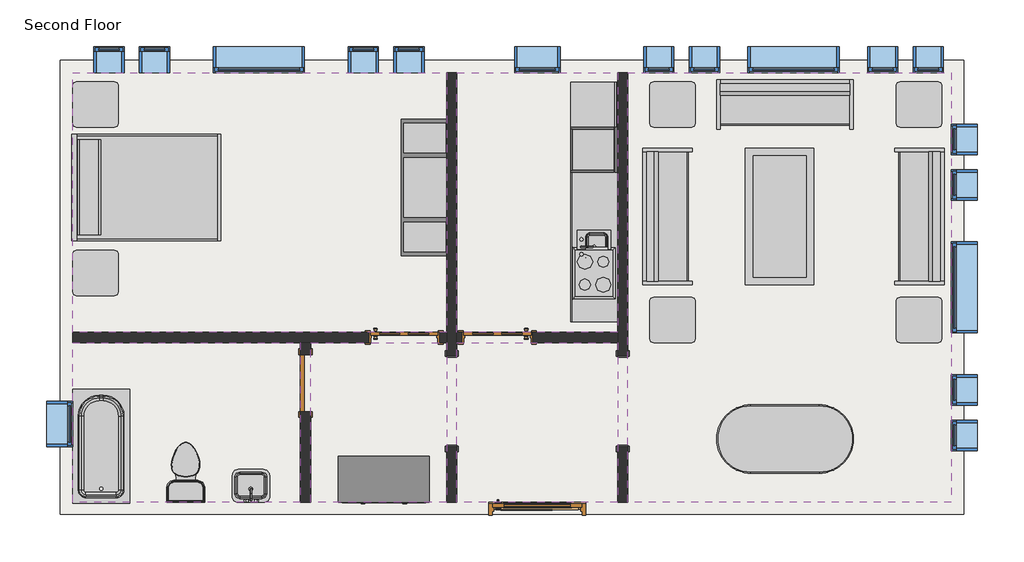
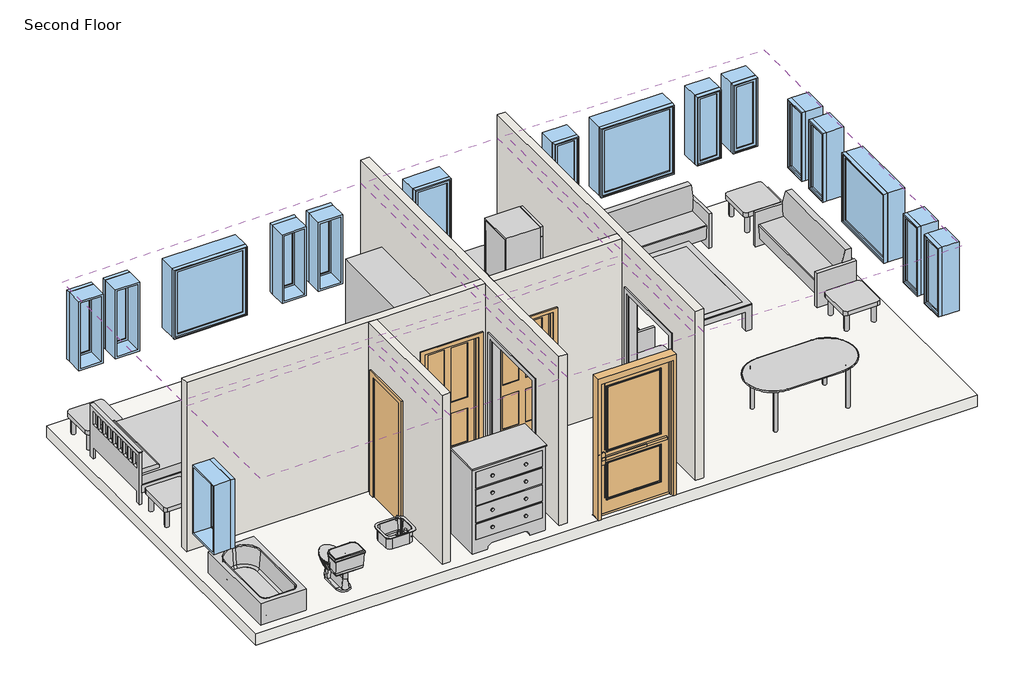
# One storey, incomplete: 17 windows, 15 furniture elements, 6 coverings, 6 proxies, 4 doors, 4 flow terminals, 4 walls, 1 slab.
"""IFC4 building model written with IfcOpenShell, lengths in millimetres."""

from ifc_helpers import new_model, si_unit, frame, origin, place, context, project, spatial, polyline, outline, extrude, faceted_brep, transform, mapped, element, save
from components import m_cook_top_4_unit2_0615_x_500mm_249f3515, m_dishwasher_610_x_610_x_875mm_54ecfc4c, m_kitchenette_medium_m_kitchenette_medium_3ff942c7, m_passage_opening_cased_1220_x_2134_mm_87a8d9c2, m_refrigerator_600_x_660mm_a466bf94, m_door_exterior_single_two_lite_1200_x_2400mm_30e12bfc, m_door_interior_single_4_panel_wood_900_x_2100mm_1f4ed184, m_door_interior_single_4_panel_wood_900_x_2100mm_40914eee, m_single_flush_0762_x_2134mm_0d89e411, m_sink_kitchen_island_450_x_450mm_f969cf2d, m_sink_vanity_square_500_x_440mm_1e229b74, m_toilet_domestic_3d_m_toilet_domestic_3d_5cb52bd4, m_toilet_domestic_3d_m_toilet_domestic_3d_183bbd19, m_tub_rectangular_3d_m_tub_rectangular_3d_3a981ad5, m_bed_shaker_1422_x_1981mm_double_096e7f55, m_counter_top_w_sink_hole_600mm_depth_8ccae52a, m_dresser_1220_x_1525_x_0610mm_18e1f140, m_entertainment_center_1830_x_1830_x_0610mm_f77a9b93, m_sofa_1830mm_f9e8a66b, m_table_coffee_0915_x_1830_x_0457mm_134cd960, m_table_dining_oval_0915_x_1830mm_a7cfbe21, m_table_end_0610_x_0160mm_cb6ea12e, m_fixed_0406_x_1220mm_57fee329, m_fixed_0406_x_1220mm_85c28f40, m_fixed_0610_x_1220mm_2c28ef1d, m_fixed_1220_x_1220_e08ff7af

model = new_model("IFC4")

# Units and contexts
model_context = context("Model", 3, world=origin())
ifc_project = project(units=[si_unit("LENGTHUNIT", "METRE", prefix="MILLI")], contexts=[model_context])

# Site, building, storey
site = spatial("IfcSite", under=ifc_project)
building = spatial("IfcBuilding", under=site)
storey = spatial("IfcBuildingStorey", under=building, Name="Second Floor", Elevation=3000.0)

# Proxies
placement = place(None, origin())
m_cook_top_4_unit2_0615_x_500mm_shape = m_cook_top_4_unit2_0615_x_500mm_249f3515(model_context)
element("IfcBuildingElementProxy", 1, Name="M_Cook Top-4 Unit2 : 0615 x 500mm", ObjectType="M_Cook Top-4 Unit2 : 0615 x 500mm", at=placement, inside=storey, context=model_context, shape_type="MappedRepresentation", body=[
    mapped(m_cook_top_4_unit2_0615_x_500mm_shape, transform((-11224.1822145, 11168.140104, 3031.0), x_axis=(0.0, 1.0, 0.0), y_axis=(-1.0, 0.0, 0.0), z_axis=(0.0, 0.0, 1.0))),
])
m_dishwasher_610_x_610_x_875mm_shape = m_dishwasher_610_x_610_x_875mm_54ecfc4c(model_context)
element("IfcBuildingElementProxy", 2, Name="M_Dishwasher : 610 x 610 x 875mm", ObjectType="M_Dishwasher : 610 x 610 x 875mm", at=placement, inside=storey, context=model_context, shape_type="MappedRepresentation", body=[
    mapped(m_dishwasher_610_x_610_x_875mm_shape, transform((-10967.5326497, 13033.8726355, 3000.0), x_axis=(0.0, 1.0, 0.0), y_axis=(-1.0, 0.0, 0.0), z_axis=(0.0, 0.0, 1.0))),
])
m_kitchenette_medium_m_kitchenette_medium_shape = m_kitchenette_medium_m_kitchenette_medium_3ff942c7(model_context)
element("IfcBuildingElementProxy", 3, Name="M_Kitchenette - Medium : M_Kitchenette - Medium", ObjectType="M_Kitchenette - Medium : M_Kitchenette - Medium", at=placement, inside=storey, context=model_context, shape_type="MappedRepresentation", body=[
    mapped(m_kitchenette_medium_m_kitchenette_medium_shape, transform((-11539.1822145, 11797.152399, 3000.0), x_axis=(0.0, 1.0, 0.0), y_axis=(-1.0, 0.0, 0.0), z_axis=(0.0, 0.0, 1.0))),
])
m_passage_opening_cased_1220_x_2134_mm_shape = m_passage_opening_cased_1220_x_2134_mm_87a8d9c2(model_context)
element("IfcBuildingElementProxy", 4, Name="M_Passage Opening-Cased : 1220 x 2134 mm", ObjectType="M_Passage Opening-Cased : 1220 x 2134 mm", at=placement, inside=storey, context=model_context, shape_type="MappedRepresentation", body=[
    mapped(m_passage_opening_cased_1220_x_2134_mm_shape, transform((-10841.0930086, 9462.255705, 3000.0), x_axis=(0.0, 1.0, 0.0), y_axis=(-1.0, 0.0, 0.0), z_axis=(0.0, 0.0, 1.0))),
])
element("IfcBuildingElementProxy", 5, Name="M_Passage Opening-Cased : 1220 x 2134 mm", ObjectType="M_Passage Opening-Cased : 1220 x 2134 mm", at=placement, inside=storey, context=model_context, shape_type="MappedRepresentation", body=[
    mapped(m_passage_opening_cased_1220_x_2134_mm_shape, transform((-13127.0930086, 9445.8783915, 3000.0), x_axis=(0.0, -1.0, 0.0), y_axis=(1.0, 0.0, 0.0), z_axis=(0.0, 0.0, 1.0))),
])
m_refrigerator_600_x_660mm_shape = m_refrigerator_600_x_660mm_a466bf94(model_context)
element("IfcBuildingElementProxy", 6, Name="M_Refrigerator : 600 x 660mm", ObjectType="M_Refrigerator : 600 x 660mm", at=placement, inside=storey, context=model_context, shape_type="MappedRepresentation", body=[
    mapped(m_refrigerator_600_x_660mm_shape, transform((-11242.9671243, 12874.1912466, 3000.0), x_axis=(0.0, 1.0, 0.0), y_axis=(-1.0, 0.0, 0.0), z_axis=(0.0, 0.0, 1.0))),
])

# Coverings
element("IfcCovering", 7, ObjectType="Plain", at=placement, inside=storey, context=model_context, shape_type="SweptSolid", body=[
    extrude(outline(polyline([(-18201.8430086, 13851.0670483), (-13194.8430086, 13851.0670483), (-13194.8430086, 10374.5670483), (-18201.8430086, 10374.5670483), (-18201.8430086, 13851.0670483)])), frame((0.0, 0.0, 5590.0), z_axis=(0.0, 0.0, 1.0), x_axis=(1.0, 0.0, 0.0)), (0.0, 0.0, 1.0), 57.0),
])
element("IfcCovering", 8, ObjectType="Plain", at=placement, inside=storey, context=model_context, shape_type="SweptSolid", body=[
    extrude(outline(polyline([(-13059.3430086, 10374.5670483), (-13059.3430086, 13851.0670483), (-10908.8430086, 13851.0670483), (-10908.8430086, 10374.5670483), (-13059.3430086, 10374.5670483)])), frame((0.0, 0.0, 5590.0), z_axis=(0.0, 0.0, 1.0), x_axis=(1.0, 0.0, 0.0)), (0.0, 0.0, 1.0), 57.0),
])
element("IfcCovering", 9, ObjectType="Plain", at=placement, inside=storey, context=model_context, shape_type="SweptSolid", body=[
    extrude(outline(polyline([(-10773.3430086, 8105.0670483), (-10773.3430086, 13851.0670483), (-6444.0930086, 13851.0670483), (-6444.0930086, 8105.0670483), (-10773.3430086, 8105.0670483)])), frame((0.0, 0.0, 5590.0), z_axis=(0.0, 0.0, 1.0), x_axis=(1.0, 0.0, 0.0)), (0.0, 0.0, 1.0), 57.0),
])
element("IfcCovering", 10, ObjectType="Plain", at=placement, inside=storey, context=model_context, shape_type="SweptSolid", body=[
    extrude(outline(polyline([(-10908.8430086, 8105.0670483), (-13059.3430086, 8105.0670483), (-13059.3430086, 10239.0670483), (-10908.8430086, 10239.0670483), (-10908.8430086, 8105.0670483)])), frame((0.0, 0.0, 5590.0), z_axis=(0.0, 0.0, 1.0), x_axis=(1.0, 0.0, 0.0)), (0.0, 0.0, 1.0), 57.0),
])
element("IfcCovering", 11, ObjectType="Plain", at=placement, inside=storey, context=model_context, shape_type="SweptSolid", body=[
    extrude(outline(polyline([(-13194.8430086, 8105.0670483), (-15018.3430086, 8105.0670483), (-15018.3430086, 10239.0670483), (-13194.8430086, 10239.0670483), (-13194.8430086, 8105.0670483)])), frame((0.0, 0.0, 5590.0), z_axis=(0.0, 0.0, 1.0), x_axis=(1.0, 0.0, 0.0)), (0.0, 0.0, 1.0), 57.0),
])
element("IfcCovering", 12, ObjectType="Plain", at=placement, inside=storey, context=model_context, shape_type="SweptSolid", body=[
    extrude(outline(polyline([(-15153.8430086, 10239.0670483), (-15153.8430086, 8105.0670483), (-18201.8430086, 8105.0670483), (-18201.8430086, 10239.0670483), (-15153.8430086, 10239.0670483)])), frame((0.0, 0.0, 5590.0), z_axis=(0.0, 0.0, 1.0), x_axis=(1.0, 0.0, 0.0)), (0.0, 0.0, 1.0), 57.0),
])

# Doors
m_door_exterior_single_two_lite_1200_x_2400mm_shape = m_door_exterior_single_two_lite_1200_x_2400mm_30e12bfc(model_context)
element("IfcDoor", 13, ObjectType="M_Door-Exterior-Single-Two_Lite : 1200 x 2400mm", at=placement, inside=storey, context=model_context, shape_type="MappedRepresentation", body=[
    mapped(m_door_exterior_single_two_lite_1200_x_2400mm_shape, transform((-11984.0930086, 7923.7170483, 3000.0), x_axis=(1.0, 0.0, 0.0), y_axis=(0.0, 1.0, 0.0), z_axis=(0.0, 0.0, 1.0))),
])
m_door_interior_single_4_panel_wood_900_x_2100mm_shape = m_door_interior_single_4_panel_wood_900_x_2100mm_1f4ed184(model_context)
element("IfcDoor", 14, ObjectType="M_Door-Interior-Single-4_Panel-Wood : 900 x 2100mm", at=placement, inside=storey, context=model_context, shape_type="MappedRepresentation", body=[
    mapped(m_door_interior_single_4_panel_wood_900_x_2100mm_shape, transform((-12518.0930086, 10309.9920483, 3000.0), x_axis=(-1.0, 0.0, 0.0), y_axis=(0.0, -1.0, 0.0), z_axis=(0.0, 0.0, 1.0))),
])
m_door_interior_single_4_panel_wood_900_x_2100mm_2_shape = m_door_interior_single_4_panel_wood_900_x_2100mm_40914eee(model_context)
element("IfcDoor", 15, ObjectType="M_Door-Interior-Single-4_Panel-Wood : 900 x 2100mm", at=placement, inside=storey, context=model_context, shape_type="MappedRepresentation", body=[
    mapped(m_door_interior_single_4_panel_wood_900_x_2100mm_2_shape, transform((-13766.0930086, 10309.9920483, 3000.0), x_axis=(1.0, 0.0, 0.0), y_axis=(0.0, 1.0, 0.0), z_axis=(0.0, 0.0, 1.0))),
])
m_single_flush_0762_x_2134mm_shape = m_single_flush_0762_x_2134mm_0d89e411(model_context)
element("IfcDoor", 16, ObjectType="M_Single-Flush : 0762 x 2134mm", at=placement, inside=storey, context=model_context, shape_type="MappedRepresentation", body=[
    mapped(m_single_flush_0762_x_2134mm_shape, transform((-15086.0930086, 9696.8170483, 3000.0), x_axis=(0.0, 1.0, 0.0), y_axis=(-1.0, 0.0, 0.0), z_axis=(0.0, 0.0, 1.0))),
])

# Flow terminals
m_sink_kitchen_island_450_x_450mm_shape = m_sink_kitchen_island_450_x_450mm_f969cf2d(model_context)
element("IfcFlowTerminal", 17, ObjectType="M_Sink Kitchen-Island : 450 x 450mm", at=placement, inside=storey, context=model_context, shape_type="MappedRepresentation", body=[
    mapped(m_sink_kitchen_island_450_x_450mm_shape, transform((-11223.7368134, 11504.7008634, 3031.0), x_axis=(0.0, 1.0, 0.0), y_axis=(-1.0, 0.0, 0.0), z_axis=(0.0, 0.0, 1.0))),
])
m_sink_vanity_square_500_x_440mm_shape = m_sink_vanity_square_500_x_440mm_1e229b74(model_context)
element("IfcFlowTerminal", 18, ObjectType="M_Sink Vanity-Square : 500 x 440mm", at=placement, inside=storey, context=model_context, shape_type="MappedRepresentation", body=[
    mapped(m_sink_vanity_square_500_x_440mm_shape, transform((-15802.3094072, 8285.2124494, 3000.0), x_axis=(-1.0, 0.0, 0.0), y_axis=(0.0, -1.0, 0.0), z_axis=(0.0, 0.0, 1.0))),
])
m_toilet_domestic_3d_m_toilet_domestic_3d_shape = m_toilet_domestic_3d_m_toilet_domestic_3d_5cb52bd4(model_context)
m_toilet_domestic_3d_m_toilet_domestic_3d_2_shape = m_toilet_domestic_3d_m_toilet_domestic_3d_183bbd19(model_context)
element("IfcFlowTerminal", 19, ObjectType="M_Toilet-Domestic-3D : M_Toilet-Domestic-3D", at=placement, inside=storey, context=model_context, shape_type="MappedRepresentation", body=[
    mapped(m_toilet_domestic_3d_m_toilet_domestic_3d_shape, transform((-16689.489036, 8599.7630756, 3000.0), x_axis=(-1.0, 0.0, 0.0), y_axis=(0.0, -1.0, 0.0), z_axis=(0.0, 0.0, 1.0))),
    mapped(m_toilet_domestic_3d_m_toilet_domestic_3d_2_shape, transform((-16689.489036, 8599.7630756, 3000.0), x_axis=(-1.0, 0.0, 0.0), y_axis=(0.0, -1.0, 0.0), z_axis=(0.0, 0.0, 1.0))),
])
m_tub_rectangular_3d_m_tub_rectangular_3d_shape = m_tub_rectangular_3d_m_tub_rectangular_3d_3a981ad5(model_context)
element("IfcFlowTerminal", 20, ObjectType="M_Tub-Rectangular-3D : M_Tub-Rectangular-3D", at=placement, inside=storey, context=model_context, shape_type="MappedRepresentation", body=[
    mapped(m_tub_rectangular_3d_m_tub_rectangular_3d_shape, transform((-18376.8430086, 9198.170017, 3000.0), x_axis=(0.0, 1.0, 0.0), y_axis=(-1.0, 0.0, 0.0), z_axis=(0.0, 0.0, 1.0))),
])

# Furniture
m_bed_shaker_1422_x_1981mm_double_shape = m_bed_shaker_1422_x_1981mm_double_096e7f55(model_context)
element("IfcFurniture", 21, ObjectType="M_Bed-Shaker : 1422 x 1981mm - Double", at=placement, inside=storey, context=model_context, shape_type="MappedRepresentation", body=[
    mapped(m_bed_shaker_1422_x_1981mm_double_shape, transform((-18201.8430086, 12334.7295483, 3000.0), x_axis=(0.0, 1.0, 0.0), y_axis=(-1.0, 0.0, 0.0), z_axis=(0.0, 0.0, 1.0))),
])
m_counter_top_w_sink_hole_600mm_depth_shape = m_counter_top_w_sink_hole_600mm_depth_8ccae52a(model_context)
element("IfcFurniture", 22, ObjectType="M_Counter Top w Sink Hole : 600mm Depth", at=placement, inside=storey, context=model_context, shape_type="MappedRepresentation", body=[
    mapped(m_counter_top_w_sink_hole_600mm_depth_shape, transform((-11539.1822145, 11720.852399, 3031.0), x_axis=(0.0, 1.0, 0.0), y_axis=(-1.0, 0.0, 0.0), z_axis=(0.0, 0.0, 1.0))),
])
m_dresser_1220_x_1525_x_0610mm_shape = m_dresser_1220_x_1525_x_0610mm_18e1f140(model_context)
element("IfcFurniture", 23, ObjectType="M_Dresser : 1220 x 1525 x 0610mm", at=placement, inside=storey, context=model_context, shape_type="MappedRepresentation", body=[
    mapped(m_dresser_1220_x_1525_x_0610mm_shape, transform((-13767.8997488, 8773.2300024, 3000.0), x_axis=(1.0, 0.0, 0.0), y_axis=(0.0, 1.0, 0.0), z_axis=(0.0, 0.0, 1.0))),
])
m_entertainment_center_1830_x_1830_x_0610mm_shape = m_entertainment_center_1830_x_1830_x_0610mm_f77a9b93(model_context)
element("IfcFurniture", 24, ObjectType="M_Entertainment center : 1830 x 1830 x 0610mm", at=placement, inside=storey, context=model_context, shape_type="MappedRepresentation", body=[
    mapped(m_entertainment_center_1830_x_1830_x_0610mm_shape, transform((-13906.2430086, 12315.6795483, 3000.0), x_axis=(0.0, 1.0, 0.0), y_axis=(-1.0, 0.0, 0.0), z_axis=(0.0, 0.0, 1.0))),
])
m_sofa_1830mm_shape = m_sofa_1830mm_f9e8a66b(model_context)
element("IfcFurniture", 25, ObjectType="M_Sofa : 1830mm", at=placement, inside=storey, context=model_context, shape_type="MappedRepresentation", body=[
    mapped(m_sofa_1830mm_shape, transform((-8739.4635004, 13279.9129499, 3000.0), x_axis=(1.0, 0.0, 0.0), y_axis=(0.0, 1.0, 0.0), z_axis=(0.0, 0.0, 1.0))),
])
element("IfcFurniture", 26, ObjectType="M_Sofa : 1830mm", at=placement, inside=storey, context=model_context, shape_type="MappedRepresentation", body=[
    mapped(m_sofa_1830mm_shape, transform((-7015.247107, 11996.4375401, 3000.0), x_axis=(0.0, -1.0, 0.0), y_axis=(1.0, 0.0, 0.0), z_axis=(0.0, 0.0, 1.0))),
])
element("IfcFurniture", 27, ObjectType="M_Sofa : 1830mm", at=placement, inside=storey, context=model_context, shape_type="MappedRepresentation", body=[
    mapped(m_sofa_1830mm_shape, transform((-10094.9389103, 11855.6965565, 3000.0), x_axis=(0.0, 1.0, 0.0), y_axis=(-1.0, 0.0, 0.0), z_axis=(0.0, 0.0, 1.0))),
])
m_table_coffee_0915_x_1830_x_0457mm_shape = m_table_coffee_0915_x_1830_x_0457mm_134cd960(model_context)
element("IfcFurniture", 28, ObjectType="M_Table-Coffee : 0915 x 1830 x 0457mm", at=placement, inside=storey, context=model_context, shape_type="MappedRepresentation", body=[
    mapped(m_table_coffee_0915_x_1830_x_0457mm_shape, transform((-8645.8819308, 11907.8012816, 3000.0), x_axis=(0.0, 1.0, 0.0), y_axis=(-1.0, 0.0, 0.0), z_axis=(0.0, 0.0, 1.0))),
])
m_table_dining_oval_0915_x_1830mm_shape = m_table_dining_oval_0915_x_1830mm_a7cfbe21(model_context)
element("IfcFurniture", 29, ObjectType="M_Table-Dining Oval : 0915 x 1830mm", at=placement, inside=storey, context=model_context, shape_type="MappedRepresentation", body=[
    mapped(m_table_dining_oval_0915_x_1830mm_shape, transform((-8267.2733365, 9307.4154089, 3000.0), x_axis=(1.0, 0.0, 0.0), y_axis=(0.0, 1.0, 0.0), z_axis=(0.0, 0.0, 1.0))),
])
m_table_end_0610_x_0160mm_shape = m_table_end_0610_x_0160mm_cb6ea12e(model_context)
element("IfcFurniture", 30, ObjectType="M_Table-End : 0610 x 0160mm", at=placement, inside=storey, context=model_context, shape_type="MappedRepresentation", body=[
    mapped(m_table_end_0610_x_0160mm_shape, transform((-10482.8266389, 13273.6670483, 3000.0), x_axis=(1.0, 0.0, 0.0), y_axis=(0.0, 1.0, 0.0), z_axis=(0.0, 0.0, 1.0))),
])
element("IfcFurniture", 31, ObjectType="M_Table-End : 0610 x 0160mm", at=placement, inside=storey, context=model_context, shape_type="MappedRepresentation", body=[
    mapped(m_table_end_0610_x_0160mm_shape, transform((-7182.8266389, 13273.6670483, 3000.0), x_axis=(1.0, 0.0, 0.0), y_axis=(0.0, 1.0, 0.0), z_axis=(0.0, 0.0, 1.0))),
])
element("IfcFurniture", 32, ObjectType="M_Table-End : 0610 x 0160mm", at=placement, inside=storey, context=model_context, shape_type="MappedRepresentation", body=[
    mapped(m_table_end_0610_x_0160mm_shape, transform((-7182.8266389, 10391.6670483, 3000.0), x_axis=(1.0, 0.0, 0.0), y_axis=(0.0, 1.0, 0.0), z_axis=(0.0, 0.0, 1.0))),
])
element("IfcFurniture", 33, ObjectType="M_Table-End : 0610 x 0160mm", at=placement, inside=storey, context=model_context, shape_type="MappedRepresentation", body=[
    mapped(m_table_end_0610_x_0160mm_shape, transform((-10482.8266389, 10391.6670483, 3000.0), x_axis=(1.0, 0.0, 0.0), y_axis=(0.0, 1.0, 0.0), z_axis=(0.0, 0.0, 1.0))),
])
element("IfcFurniture", 34, ObjectType="M_Table-End : 0610 x 0160mm", at=placement, inside=storey, context=model_context, shape_type="MappedRepresentation", body=[
    mapped(m_table_end_0610_x_0160mm_shape, transform((-18205.5766389, 13273.6670483, 3000.0), x_axis=(1.0, 0.0, 0.0), y_axis=(0.0, 1.0, 0.0), z_axis=(0.0, 0.0, 1.0))),
])
element("IfcFurniture", 35, ObjectType="M_Table-End : 0610 x 0160mm", at=placement, inside=storey, context=model_context, shape_type="MappedRepresentation", body=[
    mapped(m_table_end_0610_x_0160mm_shape, transform((-18205.5766389, 11018.6670483, 3000.0), x_axis=(1.0, 0.0, 0.0), y_axis=(0.0, 1.0, 0.0), z_axis=(0.0, 0.0, 1.0))),
])

# Slab
element("IfcSlab", 36, ObjectType="160mm Concrete With 50mm Metal Deck", at=placement, inside=storey, context=model_context, shape_type="SweptSolid", body=[
    extrude(outline(polyline([(-6279.0930086, 14016.0670483), (-6279.0930086, 7940.0670483), (-18366.8430086, 7940.0670483), (-18366.8430086, 14016.0670483), (-6279.0930086, 14016.0670483)])), frame((0.0, 0.0, 2790.0), z_axis=(0.0, 0.0, 1.0), x_axis=(1.0, 0.0, 0.0)), (0.0, 0.0, 1.0), 210.0),
])

# Walls
element("IfcWall", 37, ObjectType="Interior - 135mm Partition (2-hr)", at=placement, inside=storey, context=model_context, shape_type="Brep", body=[
    faceted_brep([(-10908.8430086, 13851.0670483, 3000.0), (-10908.8430086, 10374.5670483, 3000.0), (-10908.8430086, 10239.0670483, 3000.0), (-10908.8430086, 10064.0670483, 3000.0), (-10908.8430086, 10064.0670483, 5134.0), (-10908.8430086, 8844.0670483, 5134.0), (-10908.8430086, 8844.0670483, 3000.0), (-10908.8430086, 8105.0670483, 3000.0), (-10908.8430086, 8105.0670483, 6000.0), (-10908.8430086, 10239.0670483, 6000.0), (-10908.8430086, 10374.5670483, 6000.0), (-10908.8430086, 13851.0670483, 6000.0), (-10773.3430086, 10064.0670483, 5134.0), (-10773.3430086, 10064.0670483, 3000.0), (-10773.3430086, 13851.0670483, 3000.0), (-10773.3430086, 13851.0670483, 6000.0), (-10773.3430086, 8105.0670483, 6000.0), (-10773.3430086, 8105.0670483, 3000.0), (-10773.3430086, 8844.0670483, 3000.0), (-10773.3430086, 8844.0670483, 5134.0)], [[[0, 1, 2, 3, 4, 5, 6, 7, 8, 9, 10, 11]], [[12, 13, 14, 15, 16, 17, 18, 19]], [[18, 17, 7, 6]], [[14, 13, 3, 2, 1, 0]], [[11, 10, 9, 8, 16, 15]], [[6, 5, 19, 18]], [[4, 3, 13, 12]], [[5, 4, 12, 19]], [[0, 11, 15, 14]], [[8, 7, 17, 16]]]),
])
element("IfcWall", 38, ObjectType="Interior - 135mm Partition (2-hr)", at=placement, inside=storey, context=model_context, shape_type="Brep", body=[
    faceted_brep([(-13194.8430086, 8105.0670483, 6000.0), (-13194.8430086, 10239.0670483, 6000.0), (-13194.8430086, 10374.5670483, 6000.0), (-13194.8430086, 13851.0670483, 6000.0), (-13194.8430086, 13851.0670483, 3000.0), (-13194.8430086, 10374.5670483, 3000.0), (-13194.8430086, 10239.0670483, 3000.0), (-13194.8430086, 10064.0670483, 3000.0), (-13194.8430086, 10064.0670483, 5134.0), (-13194.8430086, 8844.0670483, 5134.0), (-13194.8430086, 8844.0670483, 3000.0), (-13194.8430086, 8105.0670483, 3000.0), (-13059.3430086, 13851.0670483, 6000.0), (-13059.3430086, 10374.5670483, 6000.0), (-13059.3430086, 10239.0670483, 6000.0), (-13059.3430086, 8105.0670483, 6000.0), (-13059.3430086, 8105.0670483, 3000.0), (-13059.3430086, 8844.0670483, 3000.0), (-13059.3430086, 8844.0670483, 5134.0), (-13059.3430086, 10064.0670483, 5134.0), (-13059.3430086, 10064.0670483, 3000.0), (-13059.3430086, 10239.0670483, 3000.0), (-13059.3430086, 10374.5670483, 3000.0), (-13059.3430086, 13851.0670483, 3000.0)], [[[0, 1, 2, 3, 4, 5, 6, 7, 8, 9, 10, 11]], [[12, 13, 14, 15, 16, 17, 18, 19, 20, 21, 22, 23]], [[4, 23, 22, 21, 20, 7, 6, 5]], [[16, 11, 10, 17]], [[3, 2, 1, 0, 15, 14, 13, 12]], [[19, 8, 7, 20]], [[9, 18, 17, 10]], [[8, 19, 18, 9]], [[4, 3, 12, 23]], [[0, 11, 16, 15]]]),
])
element("IfcWall", 39, ObjectType="Interior - 135mm Partition (2-hr)", at=placement, inside=storey, context=model_context, shape_type="Brep", body=[
    faceted_brep([(-10908.8430086, 10239.0670483, 3000.0), (-10908.8430086, 10239.0670483, 6000.0), (-13059.3430086, 10239.0670483, 6000.0), (-13059.3430086, 10239.0670483, 3000.0), (-12993.0930086, 10239.0670483, 3000.0), (-12993.0930086, 10239.0670483, 5125.0), (-12043.0930086, 10239.0670483, 5125.0), (-12043.0930086, 10239.0670483, 3000.0), (-10908.8430086, 10374.5670483, 6000.0), (-10908.8430086, 10374.5670483, 3000.0), (-12043.0930086, 10374.5670483, 3000.0), (-12043.0930086, 10374.5670483, 5125.0), (-12993.0930086, 10374.5670483, 5125.0), (-12993.0930086, 10374.5670483, 3000.0), (-13059.3430086, 10374.5670483, 3000.0), (-13059.3430086, 10374.5670483, 6000.0)], [[[0, 1, 2, 3, 4, 5, 6, 7]], [[8, 9, 10, 11, 12, 13, 14, 15]], [[9, 0, 7, 10]], [[13, 4, 3, 14]], [[1, 8, 15, 2]], [[1, 0, 9, 8]], [[3, 2, 15, 14]], [[5, 4, 13, 12]], [[6, 5, 12, 11]], [[7, 6, 11, 10]]]),
    faceted_brep([(-18201.8430086, 10239.0670483, 3000.0), (-15153.8430086, 10239.0670483, 3000.0), (-15018.3430086, 10239.0670483, 3000.0), (-14241.0930086, 10239.0670483, 3000.0), (-14241.0930086, 10239.0670483, 5125.0), (-13291.0930086, 10239.0670483, 5125.0), (-13291.0930086, 10239.0670483, 3000.0), (-13194.8430086, 10239.0670483, 3000.0), (-13194.8430086, 10239.0670483, 6000.0), (-15018.3430086, 10239.0670483, 6000.0), (-15153.8430086, 10239.0670483, 6000.0), (-18201.8430086, 10239.0670483, 6000.0), (-14241.0930086, 10374.5670483, 3000.0), (-18201.8430086, 10374.5670483, 3000.0), (-18201.8430086, 10374.5670483, 6000.0), (-13194.8430086, 10374.5670483, 6000.0), (-13194.8430086, 10374.5670483, 3000.0), (-13291.0930086, 10374.5670483, 3000.0), (-13291.0930086, 10374.5670483, 5125.0), (-14241.0930086, 10374.5670483, 5125.0)], [[[0, 1, 2, 3, 4, 5, 6, 7, 8, 9, 10, 11]], [[12, 13, 14, 15, 16, 17, 18, 19]], [[6, 17, 16, 7]], [[3, 2, 1, 0, 13, 12]], [[14, 11, 10, 9, 8, 15]], [[8, 7, 16, 15]], [[5, 18, 17, 6]], [[18, 5, 4, 19]], [[19, 4, 3, 12]], [[0, 11, 14, 13]]]),
])
element("IfcWall", 40, ObjectType="Interior - 135mm Partition (2-hr)", at=placement, inside=storey, context=model_context, shape_type="SweptSolid", body=[
    extrude(outline(polyline([(10239.0670483, 3000.0), (10077.8170483, 3000.0), (10077.8170483, 5134.0), (9315.8170483, 5134.0), (9315.8170483, 3000.0), (8105.0670483, 3000.0), (8105.0670483, 6000.0), (10239.0670483, 6000.0), (10239.0670483, 3000.0)])), frame((-15153.8430086, 0.0, 0.0), z_axis=(1.0, 0.0, 0.0), x_axis=(0.0, 1.0, 0.0)), (0.0, 0.0, 1.0), 135.5),
])

# Windows
m_fixed_0406_x_1220mm_shape = m_fixed_0406_x_1220mm_57fee329(model_context)
element("IfcWindow", 41, ObjectType="M_Fixed : 0406 x 1220mm", at=placement, inside=storey, context=model_context, shape_type="MappedRepresentation", body=[
    mapped(m_fixed_0406_x_1220mm_shape, transform((-17716.4430086, 14013.0670483, 3000.0), x_axis=(1.0, 0.0, 0.0), y_axis=(0.0, 1.0, 0.0), z_axis=(0.0, 0.0, 1.0))),
])
element("IfcWindow", 42, ObjectType="M_Fixed : 0406 x 1220mm", at=placement, inside=storey, context=model_context, shape_type="MappedRepresentation", body=[
    mapped(m_fixed_0406_x_1220mm_shape, transform((-17106.8430086, 14013.0670483, 3000.0), x_axis=(1.0, 0.0, 0.0), y_axis=(0.0, 1.0, 0.0), z_axis=(0.0, 0.0, 1.0))),
])
element("IfcWindow", 43, ObjectType="M_Fixed : 0406 x 1220mm", at=placement, inside=storey, context=model_context, shape_type="MappedRepresentation", body=[
    mapped(m_fixed_0406_x_1220mm_shape, transform((-9748.4930086, 14039.0670483, 3000.0), x_axis=(-1.0, 0.0, 0.0), y_axis=(0.0, -1.0, 0.0), z_axis=(0.0, 0.0, 1.0))),
])
element("IfcWindow", 44, ObjectType="M_Fixed : 0406 x 1220mm", at=placement, inside=storey, context=model_context, shape_type="MappedRepresentation", body=[
    mapped(m_fixed_0406_x_1220mm_shape, transform((-10358.0930086, 14039.0670483, 3000.0), x_axis=(-1.0, 0.0, 0.0), y_axis=(0.0, -1.0, 0.0), z_axis=(0.0, 0.0, 1.0))),
])
element("IfcWindow", 45, ObjectType="M_Fixed : 0406 x 1220mm", at=placement, inside=storey, context=model_context, shape_type="MappedRepresentation", body=[
    mapped(m_fixed_0406_x_1220mm_shape, transform((-6256.0930086, 12349.6670483, 3000.0), x_axis=(0.0, 1.0, 0.0), y_axis=(-1.0, 0.0, 0.0), z_axis=(0.0, 0.0, 1.0))),
])
element("IfcWindow", 46, ObjectType="M_Fixed : 0406 x 1220mm", at=placement, inside=storey, context=model_context, shape_type="MappedRepresentation", body=[
    mapped(m_fixed_0406_x_1220mm_shape, transform((-6256.0930086, 12959.2670483, 3000.0), x_axis=(0.0, 1.0, 0.0), y_axis=(-1.0, 0.0, 0.0), z_axis=(0.0, 0.0, 1.0))),
])
m_fixed_0406_x_1220mm_2_shape = m_fixed_0406_x_1220mm_85c28f40(model_context)
element("IfcWindow", 47, ObjectType="M_Fixed : 0406 x 1220mm", at=placement, inside=storey, context=model_context, shape_type="MappedRepresentation", body=[
    mapped(m_fixed_0406_x_1220mm_2_shape, transform((-13703.2430086, 14013.0670483, 3000.0), x_axis=(-1.0, 0.0, 0.0), y_axis=(0.0, -1.0, 0.0), z_axis=(0.0, 0.0, 1.0))),
])
element("IfcWindow", 48, ObjectType="M_Fixed : 0406 x 1220mm", at=placement, inside=storey, context=model_context, shape_type="MappedRepresentation", body=[
    mapped(m_fixed_0406_x_1220mm_2_shape, transform((-14312.8430086, 14013.0670483, 3000.0), x_axis=(-1.0, 0.0, 0.0), y_axis=(0.0, -1.0, 0.0), z_axis=(0.0, 0.0, 1.0))),
])
element("IfcWindow", 49, ObjectType="M_Fixed : 0406 x 1220mm", at=placement, inside=storey, context=model_context, shape_type="MappedRepresentation", body=[
    mapped(m_fixed_0406_x_1220mm_2_shape, transform((-7361.6930086, 14039.0670483, 3000.0), x_axis=(1.0, 0.0, 0.0), y_axis=(0.0, 1.0, 0.0), z_axis=(0.0, 0.0, 1.0))),
])
element("IfcWindow", 50, ObjectType="M_Fixed : 0406 x 1220mm", at=placement, inside=storey, context=model_context, shape_type="MappedRepresentation", body=[
    mapped(m_fixed_0406_x_1220mm_2_shape, transform((-6752.0930086, 14039.0670483, 3000.0), x_axis=(1.0, 0.0, 0.0), y_axis=(0.0, 1.0, 0.0), z_axis=(0.0, 0.0, 1.0))),
])
element("IfcWindow", 51, ObjectType="M_Fixed : 0406 x 1220mm", at=placement, inside=storey, context=model_context, shape_type="MappedRepresentation", body=[
    mapped(m_fixed_0406_x_1220mm_2_shape, transform((-6256.0930086, 9606.4670483, 3000.0), x_axis=(0.0, -1.0, 0.0), y_axis=(1.0, 0.0, 0.0), z_axis=(0.0, 0.0, 1.0))),
])
element("IfcWindow", 52, ObjectType="M_Fixed : 0406 x 1220mm", at=placement, inside=storey, context=model_context, shape_type="MappedRepresentation", body=[
    mapped(m_fixed_0406_x_1220mm_2_shape, transform((-6256.0930086, 8996.8670483, 3000.0), x_axis=(0.0, -1.0, 0.0), y_axis=(1.0, 0.0, 0.0), z_axis=(0.0, 0.0, 1.0))),
])
m_fixed_0610_x_1220mm_shape = m_fixed_0610_x_1220mm_2c28ef1d(model_context)
element("IfcWindow", 53, ObjectType="M_Fixed : 0610 x 1220mm", at=placement, inside=storey, context=model_context, shape_type="MappedRepresentation", body=[
    mapped(m_fixed_0610_x_1220mm_shape, transform((-11984.0930086, 14039.0670483, 3000.0), x_axis=(-1.0, 0.0, 0.0), y_axis=(0.0, -1.0, 0.0), z_axis=(0.0, 0.0, 1.0))),
])
element("IfcWindow", 54, ObjectType="M_Fixed : 0610 x 1220mm", at=placement, inside=storey, context=model_context, shape_type="MappedRepresentation", body=[
    mapped(m_fixed_0610_x_1220mm_shape, transform((-18389.8430086, 9150.0670483, 3000.0), x_axis=(0.0, -1.0, 0.0), y_axis=(1.0, 0.0, 0.0), z_axis=(0.0, 0.0, 1.0))),
])
m_fixed_1220_x_1220_shape = m_fixed_1220_x_1220_e08ff7af(model_context)
element("IfcWindow", 55, ObjectType="M_Fixed : 1220 x 1220", at=placement, inside=storey, context=model_context, shape_type="MappedRepresentation", body=[
    mapped(m_fixed_1220_x_1220_shape, transform((-15709.8430086, 14039.0670483, 3000.0), x_axis=(-1.0, 0.0, 0.0), y_axis=(0.0, -1.0, 0.0), z_axis=(0.0, 0.0, 1.0))),
])
element("IfcWindow", 56, ObjectType="M_Fixed : 1220 x 1220", at=placement, inside=storey, context=model_context, shape_type="MappedRepresentation", body=[
    mapped(m_fixed_1220_x_1220_shape, transform((-8555.0930086, 14039.0670483, 3000.0), x_axis=(-1.0, 0.0, 0.0), y_axis=(0.0, -1.0, 0.0), z_axis=(0.0, 0.0, 1.0))),
])
element("IfcWindow", 57, ObjectType="M_Fixed : 1220 x 1220", at=placement, inside=storey, context=model_context, shape_type="MappedRepresentation", body=[
    mapped(m_fixed_1220_x_1220_shape, transform((-6256.0930086, 10978.0670483, 3000.0), x_axis=(0.0, 1.0, 0.0), y_axis=(-1.0, 0.0, 0.0), z_axis=(0.0, 0.0, 1.0))),
])

save(model, "model.ifc")
